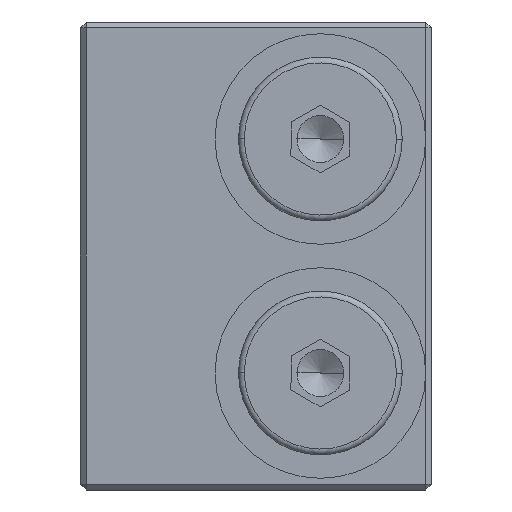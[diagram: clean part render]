
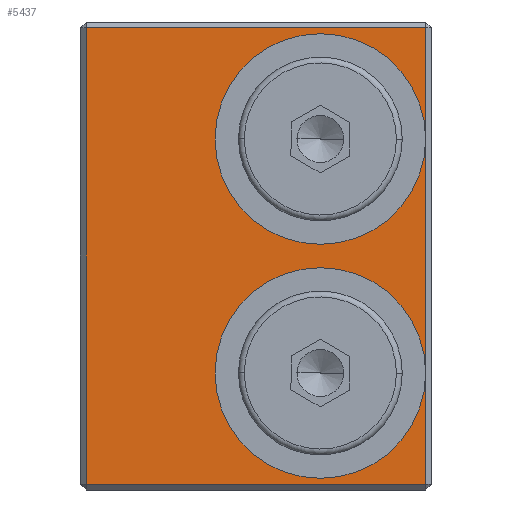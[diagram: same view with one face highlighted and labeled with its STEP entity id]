
A CAD part, left-side view. The second image highlights one B-rep face of the part: STEP entity #5437.
In plain terms, the highlighted planar face has unit normal (-1, 0, 0).
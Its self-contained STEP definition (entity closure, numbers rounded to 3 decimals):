
#79 = CIRCLE ( 'NONE', #317, 9. ) ;
#175 = DIRECTION ( 'NONE',  ( -1., 0., 0. ) ) ;
#237 = DIRECTION ( 'NONE',  ( 0., 0., 1. ) ) ;
#317 = AXIS2_PLACEMENT_3D ( 'NONE', #6550, #175, #7621 ) ;
#495 = ORIENTED_EDGE ( 'NONE', *, *, #1090, .F. ) ;
#579 = CARTESIAN_POINT ( 'NONE',  ( 0., -14.5, -10. ) ) ;
#590 = AXIS2_PLACEMENT_3D ( 'NONE', #4950, #12410, #6030 ) ;
#728 = DIRECTION ( 'NONE',  ( 0., 1., 0. ) ) ;
#873 = DIRECTION ( 'NONE',  ( 0., 0., 1. ) ) ;
#1040 = CARTESIAN_POINT ( 'NONE',  ( 0., -5.5, 1. ) ) ;
#1090 = EDGE_CURVE ( 'NONE', #6439, #4870, #3023, .T. ) ;
#1109 = EDGE_CURVE ( 'NONE', #1354, #6439, #7996, .T. ) ;
#1301 = EDGE_CURVE ( 'NONE', #4870, #6820, #8370, .T. ) ;
#1354 = VERTEX_POINT ( 'NONE', #9591 ) ;
#1682 = CARTESIAN_POINT ( 'NONE',  ( 0., -14.5, 10. ) ) ;
#1955 = VERTEX_POINT ( 'NONE', #9717 ) ;
#2376 = AXIS2_PLACEMENT_3D ( 'NONE', #12266, #5899, #13315 ) ;
#2449 = LINE ( 'NONE', #6116, #13453 ) ;
#2463 = VECTOR ( 'NONE', #873, 1000. ) ;
#2954 = VERTEX_POINT ( 'NONE', #4532 ) ;
#3023 = CIRCLE ( 'NONE', #9545, 9. ) ;
#3040 = ORIENTED_EDGE ( 'NONE', *, *, #1301, .F. ) ;
#3243 = DIRECTION ( 'NONE',  ( -1., 0., 0. ) ) ;
#3440 = AXIS2_PLACEMENT_3D ( 'NONE', #9595, #3243, #10680 ) ;
#3627 = FACE_OUTER_BOUND ( 'NONE', #9042, .T. ) ;
#3764 = EDGE_CURVE ( 'NONE', #6820, #6439, #12468, .T. ) ;
#4006 = DIRECTION ( 'NONE',  ( 0., -1., 0. ) ) ;
#4170 = ORIENTED_EDGE ( 'NONE', *, *, #13479, .F. ) ;
#4184 = EDGE_CURVE ( 'NONE', #2954, #1354, #2449, .T. ) ;
#4532 = CARTESIAN_POINT ( 'NONE',  ( 0., 14.5, -19.5 ) ) ;
#4797 = DIRECTION ( 'NONE',  ( -1., 0., 0. ) ) ;
#4870 = VERTEX_POINT ( 'NONE', #13648 ) ;
#4933 = DIRECTION ( 'NONE',  ( -1., 0., 0. ) ) ;
#4950 = CARTESIAN_POINT ( 'NONE',  ( 0., -5.5, 10. ) ) ;
#5179 = VECTOR ( 'NONE', #13298, 1000. ) ;
#5239 = EDGE_CURVE ( 'NONE', #1955, #2954, #12191, .T. ) ;
#5324 = VERTEX_POINT ( 'NONE', #1682 ) ;
#5437 = ADVANCED_FACE ( 'NONE', ( #3627 ), #8037, .T. ) ;
#5473 = ORIENTED_EDGE ( 'NONE', *, *, #6487, .T. ) ;
#5555 = CARTESIAN_POINT ( 'NONE',  ( 0., -14.5, 20. ) ) ;
#5730 = CARTESIAN_POINT ( 'NONE',  ( 0., 14.5, -20. ) ) ;
#5736 = CARTESIAN_POINT ( 'NONE',  ( 0., -5.5, -19. ) ) ;
#5899 = DIRECTION ( 'NONE',  ( -1., 0., 0. ) ) ;
#6030 = DIRECTION ( 'NONE',  ( 0., 0., 1. ) ) ;
#6116 = CARTESIAN_POINT ( 'NONE',  ( 0., -15., -19.5 ) ) ;
#6141 = ORIENTED_EDGE ( 'NONE', *, *, #10810, .F. ) ;
#6313 = EDGE_CURVE ( 'NONE', #5324, #7182, #8419, .T. ) ;
#6322 = CARTESIAN_POINT ( 'NONE',  ( 0., -5.5, -10. ) ) ;
#6439 = VERTEX_POINT ( 'NONE', #579 ) ;
#6487 = EDGE_CURVE ( 'NONE', #7182, #1955, #8907, .T. ) ;
#6550 = CARTESIAN_POINT ( 'NONE',  ( 0., -5.5, 10. ) ) ;
#6560 = ORIENTED_EDGE ( 'NONE', *, *, #5239, .T. ) ;
#6685 = AXIS2_PLACEMENT_3D ( 'NONE', #11312, #4933, #12394 ) ;
#6797 = DIRECTION ( 'NONE',  ( 0., 0., -1. ) ) ;
#6820 = VERTEX_POINT ( 'NONE', #5736 ) ;
#6880 = CARTESIAN_POINT ( 'NONE',  ( 0., -5.5, 19. ) ) ;
#7182 = VERTEX_POINT ( 'NONE', #10524 ) ;
#7402 = DIRECTION ( 'NONE',  ( 0., 0., 1. ) ) ;
#7597 = AXIS2_PLACEMENT_3D ( 'NONE', #6322, #13747, #7402 ) ;
#7621 = DIRECTION ( 'NONE',  ( 0., 0., 1. ) ) ;
#7996 = LINE ( 'NONE', #10107, #5179 ) ;
#8037 = PLANE ( 'NONE',  #6685 ) ;
#8150 = VERTEX_POINT ( 'NONE', #1040 ) ;
#8157 = CARTESIAN_POINT ( 'NONE',  ( 0., 15., 19.5 ) ) ;
#8370 = CIRCLE ( 'NONE', #7597, 9. ) ;
#8419 = LINE ( 'NONE', #5555, #10910 ) ;
#8907 = LINE ( 'NONE', #8157, #11758 ) ;
#8912 = CIRCLE ( 'NONE', #590, 9. ) ;
#9042 = EDGE_LOOP ( 'NONE', ( #495, #13034, #11287, #6141, #4170, #10130, #5473, #6560, #11718, #12845, #12363, #3040 ) ) ;
#9545 = AXIS2_PLACEMENT_3D ( 'NONE', #11174, #4797, #12252 ) ;
#9591 = CARTESIAN_POINT ( 'NONE',  ( 0., -14.5, -19.5 ) ) ;
#9595 = CARTESIAN_POINT ( 'NONE',  ( 0., -5.5, 10. ) ) ;
#9717 = CARTESIAN_POINT ( 'NONE',  ( 0., 14.5, 19.5 ) ) ;
#10107 = CARTESIAN_POINT ( 'NONE',  ( 0., -14.5, 20. ) ) ;
#10130 = ORIENTED_EDGE ( 'NONE', *, *, #6313, .T. ) ;
#10524 = CARTESIAN_POINT ( 'NONE',  ( 0., -14.5, 19.5 ) ) ;
#10680 = DIRECTION ( 'NONE',  ( 0., 0., 1. ) ) ;
#10810 = EDGE_CURVE ( 'NONE', #12604, #8150, #79, .T. ) ;
#10874 = CIRCLE ( 'NONE', #3440, 9. ) ;
#10910 = VECTOR ( 'NONE', #237, 1000. ) ;
#10970 = LINE ( 'NONE', #13600, #2463 ) ;
#11174 = CARTESIAN_POINT ( 'NONE',  ( 0., -5.5, -10. ) ) ;
#11287 = ORIENTED_EDGE ( 'NONE', *, *, #11326, .F. ) ;
#11312 = CARTESIAN_POINT ( 'NONE',  ( 0., 15., -20. ) ) ;
#11326 = EDGE_CURVE ( 'NONE', #8150, #5324, #10874, .T. ) ;
#11718 = ORIENTED_EDGE ( 'NONE', *, *, #4184, .T. ) ;
#11758 = VECTOR ( 'NONE', #728, 1000. ) ;
#11859 = VECTOR ( 'NONE', #6797, 1000. ) ;
#12191 = LINE ( 'NONE', #5730, #11859 ) ;
#12252 = DIRECTION ( 'NONE',  ( 0., 0., 1. ) ) ;
#12266 = CARTESIAN_POINT ( 'NONE',  ( 0., -5.5, -10. ) ) ;
#12363 = ORIENTED_EDGE ( 'NONE', *, *, #3764, .F. ) ;
#12394 = DIRECTION ( 'NONE',  ( 0., 0., 1. ) ) ;
#12410 = DIRECTION ( 'NONE',  ( -1., 0., 0. ) ) ;
#12468 = CIRCLE ( 'NONE', #2376, 9. ) ;
#12604 = VERTEX_POINT ( 'NONE', #6880 ) ;
#12797 = EDGE_CURVE ( 'NONE', #6439, #5324, #10970, .T. ) ;
#12845 = ORIENTED_EDGE ( 'NONE', *, *, #1109, .T. ) ;
#13034 = ORIENTED_EDGE ( 'NONE', *, *, #12797, .T. ) ;
#13298 = DIRECTION ( 'NONE',  ( 0., 0., 1. ) ) ;
#13315 = DIRECTION ( 'NONE',  ( 0., 0., 1. ) ) ;
#13453 = VECTOR ( 'NONE', #4006, 1000. ) ;
#13479 = EDGE_CURVE ( 'NONE', #5324, #12604, #8912, .T. ) ;
#13600 = CARTESIAN_POINT ( 'NONE',  ( 0., -14.5, 20. ) ) ;
#13648 = CARTESIAN_POINT ( 'NONE',  ( 0., -5.5, -1. ) ) ;
#13747 = DIRECTION ( 'NONE',  ( -1., 0., 0. ) ) ;
